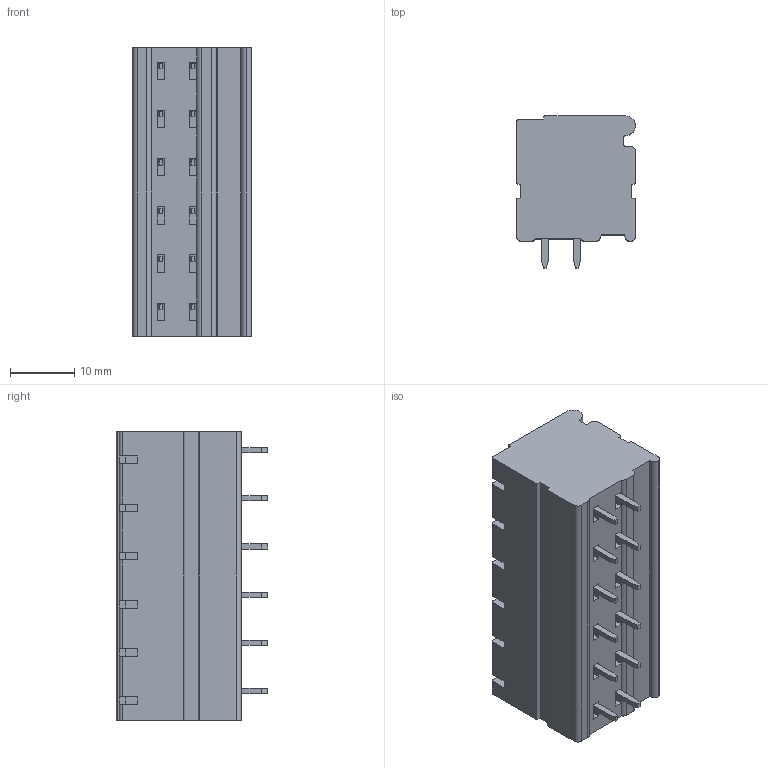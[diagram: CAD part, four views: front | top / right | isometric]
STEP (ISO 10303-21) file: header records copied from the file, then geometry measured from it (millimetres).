
FILE_DESCRIPTION (( 'STEP AP203' ), '1' );
FILE_NAME ('182-A-121-06.STEP', '2019-02-02T16:28:07', ( '' ), ( '' ), 'SwSTEP 2.0', 'SolidWorks 2016', '' );
FILE_SCHEMA (( 'CONFIG_CONTROL_DESIGN' ));
Length unit declared in the file: millimetre
Products named in the file (1): 182-A-121-06
Bounding box: 18.5 x 23.6 x 45 mm (x, y, z)
Volume: 14529.3 mm3; surface area: 5797.6 mm2
Topology: 1 solids, 1 shells, 434 faces, 1152 edges, 756 vertices
Faces by surface type: plane 392, cylinder 36, cone 6
Entity records: 13379 total; most frequent: CARTESIAN_POINT 2445, ORIENTED_EDGE 2304, DIRECTION 2112, EDGE_CURVE 1152, VECTOR 1026, LINE 1026, VERTEX_POINT 756, AXIS2_PLACEMENT_3D 543
